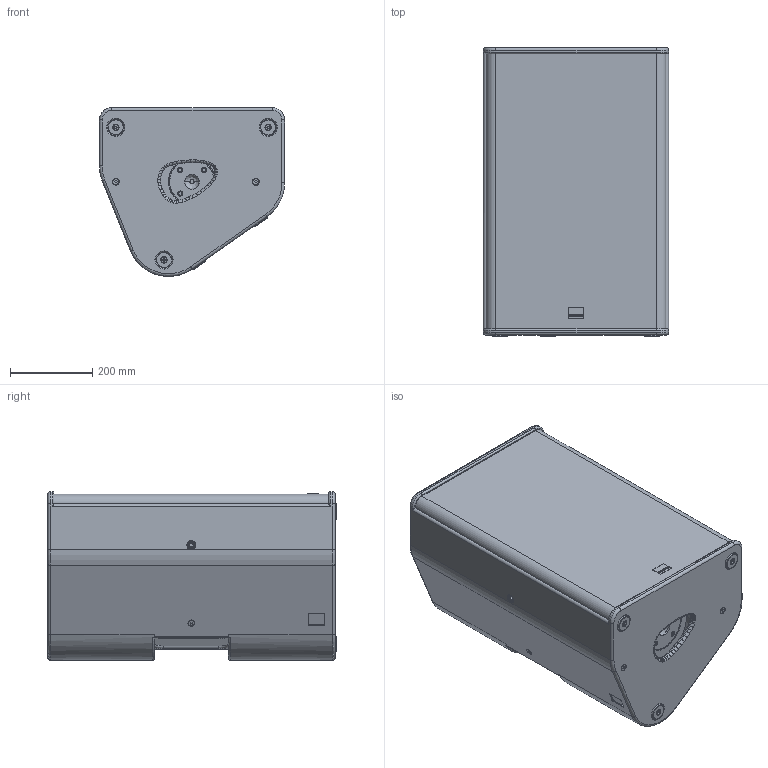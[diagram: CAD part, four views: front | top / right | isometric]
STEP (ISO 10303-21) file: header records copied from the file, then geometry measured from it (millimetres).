
FILE_DESCRIPTION (( 'STEP AP203' ), '1' );
FILE_NAME ('Seeburg_TSM15.STEP', '2012-10-17T11:43:10', ( 'Fabian' ), ( '' ), 'SwSTEP 2.0', 'SolidWorks 2009', '' );
FILE_SCHEMA (( 'CONFIG_CONTROL_DESIGN' ));
Length unit declared in the file: millimetre
Products named in the file (2): TSM15; Seeburg_TSM15
Assembly tree (1 placements, depth 2):
  Seeburg_TSM15
    TSM15
Bounding box: 450 x 701 x 409.91 mm (x, y, z)
Volume: 21737976.4 mm3; surface area: 2872807.7 mm2
Topology: 29 solids, 29 shells, 1090 faces, 2587 edges, 1588 vertices
Faces by surface type: cylinder 556, plane 388, torus 78, cone 64, bspline 4
Entity records: 39038 total; most frequent: CARTESIAN_POINT 13894, DIRECTION 5200, ORIENTED_EDGE 5162, EDGE_CURVE 2581, AXIS2_PLACEMENT_3D 1870, VERTEX_POINT 1586, VECTOR 1460, LINE 1460
